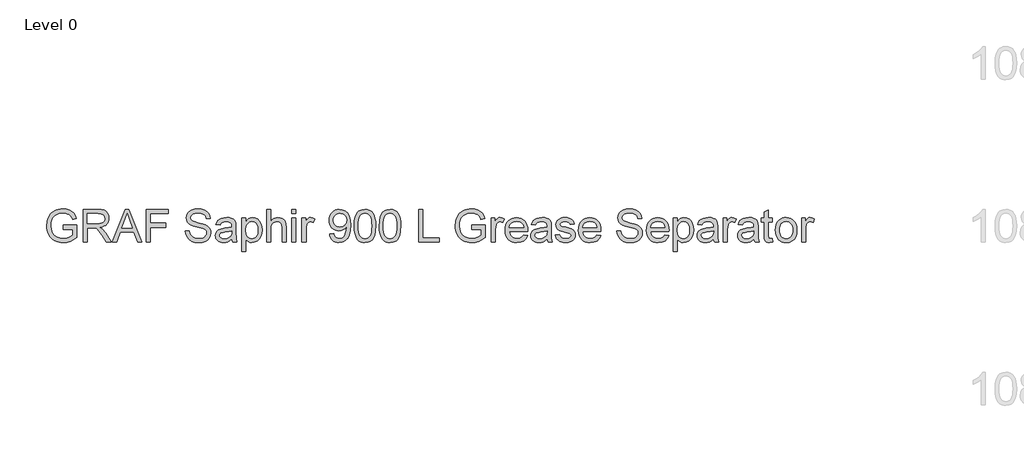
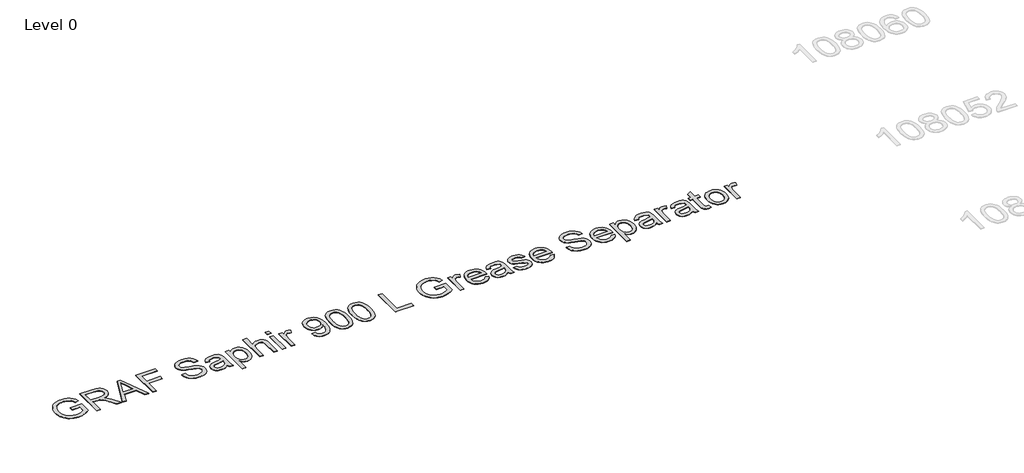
# One storey, part 2 of 15: 1 proxy.
"""IFC4 building model written with IfcOpenShell, lengths in millimetres."""

from ifc_helpers import new_model, si_unit, origin, origin_with_axes, place, context, project, spatial, polyline, outline, extrude, element, save

model = new_model("IFC4")

# Units and contexts
model_context = context("Model", 3, world=origin())
ifc_project = project(units=[si_unit("LENGTHUNIT", "METRE", prefix="MILLI")], contexts=[model_context])

# Site, building, storey
site = spatial("IfcSite", under=ifc_project)
building = spatial("IfcBuilding", under=site)
storey = spatial("IfcBuildingStorey", under=building, Name="Level 0", Elevation=0.0)

# Proxy
placement = place(None, origin())
element("IfcBuildingElementProxy", 1, Name="400mm Arial", ObjectType="400mm Arial", at=placement, inside=storey, context=model_context, shape_type="SweptSolid", body=[
    extrude(outline(polyline([(-14937.8149833, 6305.9861864), (-14937.8149833, 6356.2143415), (-14774.5734793, 6356.2143415), (-14774.5734793, 6206.0203856), (-14814.2434211, 6178.429236), (-14855.1641617, 6158.6371846), (-14897.2375993, 6146.717808), (-14940.3656318, 6142.7446824), (-14969.2167773, 6144.3235093), (-14996.7128907, 6149.05999), (-15022.8539722, 6156.9541245), (-15047.6400216, 6168.0059128), (-15070.2708957, 6182.0498079), (-15089.9464511, 6198.9202631), (-15106.6666877, 6218.6172783), (-15120.4316057, 6241.1408534), (-15131.182957, 6265.770553), (-15138.8624937, 6291.7859414), (-15143.4702157, 6319.1870187), (-15145.006123, 6347.9737848), (-15138.8870191, 6404.5662984), (-15131.2381393, 6431.3818302), (-15120.5297076, 6457.2102119), (-15106.9517963, 6480.9171408), (-15090.6944778, 6501.3683141), (-15071.7577521, 6518.5637317), (-15050.1416192, 6532.5033936), (-15026.3151286, 6543.2762047), (-15000.74733, 6550.9710698), (-14973.4382232, 6555.5879888), (-14944.3878083, 6557.1269618), (-14903.0133466, 6553.5585065), (-14865.8082141, 6542.8531404), (-14834.4769309, 6525.7834158), (-14810.7240167, 6503.1218849), (-14793.1515201, 6473.7771644), (-14780.3614894, 6436.6578711), (-14826.6655698, 6423.610323), (-14837.0030539, 6450.0855639), (-14849.5723554, 6470.0615563), (-14866.2006216, 6485.1201926), (-14888.7149997, 6496.8433655), (-14915.5581226, 6504.3849464), (-14945.1726232, 6506.8988067), (-14979.8393699, 6504.1887427), (-15009.478396, 6496.0585506), (-15033.9793369, 6483.5260373), (-15053.2318279, 6467.6090096), (-15068.0084214, 6449.1290708), (-15079.0816695, 6428.9078238), (-15090.8538933, 6390.9914528), (-15094.7779679, 6350.033924), (-15090.0568157, 6302.0007981), (-15075.8933588, 6262.4780091), (-15052.7167931, 6231.7475998), (-15020.9563142, 6210.091613), (-14983.78797, 6197.2525314), (-14944.3878083, 6192.9728375), (-14909.5984343, 6196.1979363), (-14875.6674516, 6205.8732328), (-14846.2001038, 6219.2028238), (-14824.8016344, 6233.390806), (-14824.8016344, 6305.9861864), (-14937.8149833, 6305.9861864)])), origin_with_axes(), (0.0, 0.0, 1.0), 5.0),
    extrude(outline(polyline([(-14692.9527273, 6149.0232018), (-14692.9527273, 6550.8484424), (-14519.8029349, 6550.8484424), (-14473.2658625, 6548.1383784), (-14439.4084563, 6540.0081863), (-14414.6622607, 6524.9986009), (-14395.4588206, 6501.6503569), (-14383.1347737, 6472.6980439), (-14379.0267581, 6440.8762513), (-14380.7282123, 6420.2380714), (-14385.832575, 6401.2921486), (-14394.3398462, 6384.0384831), (-14406.2500258, 6368.4770747), (-14421.716398, 6355.1045642), (-14440.892247, 6344.4175922), (-14463.7775727, 6336.4161588), (-14490.3723753, 6331.100264), (-14461.8247325, 6309.6159554), (-14421.1124584, 6257.9162724), (-14354.1088843, 6149.0232018), (-14412.4794942, 6149.0232018), (-14464.7677885, 6232.3116855), (-14502.5370066, 6287.4449339), (-14516.5778361, 6303.5213771), (-14529.0735612, 6313.4909791), (-14552.9613654, 6323.055911), (-14582.0976194, 6324.8217446), (-14642.7245723, 6324.8217446), (-14642.7245723, 6149.0232018), (-14692.9527273, 6149.0232018)]), holes=[polyline([(-14642.7245723, 6375.0498997), (-14530.2998345, 6375.0498997), (-14498.0120581, 6376.827996), (-14472.9592942, 6382.1622849), (-14454.0992106, 6391.4083857), (-14440.3894749, 6404.9219177), (-14432.0385536, 6421.268141), (-14429.2549132, 6439.0123159), (-14434.5646766, 6463.5132568), (-14450.493967, 6483.2562572), (-14462.6555327, 6490.8530204), (-14477.9011757, 6496.2792798), (-14517.6446939, 6500.6202873), (-14642.7245723, 6500.6202873), (-14642.7245723, 6375.0498997)])]), origin_with_axes(), (0.0, 0.0, 1.0), 5.0),
    extrude(outline(polyline([(-14337.9220765, 6149.0232018), (-14177.5255266, 6550.8484424), (-14134.7531133, 6550.8484424), (-13974.3565634, 6149.0232018), (-14027.4296726, 6149.0232018), (-14073.4394475, 6274.5935895), (-14238.9372943, 6274.5935895), (-14284.8489673, 6149.0232018), (-14337.9220765, 6149.0232018)]), holes=[polyline([(-14220.4941437, 6324.8217446), (-14091.7844963, 6324.8217446), (-14127.9840846, 6423.610323), (-14156.13932, 6500.6202873), (-14181.1552956, 6432.2432872), (-14220.4941437, 6324.8217446)])]), origin_with_axes(), (0.0, 0.0, 1.0), 5.0),
    extrude(outline(polyline([(-13920.6948431, 6149.0232018), (-13920.6948431, 6550.8484424), (-13650.7185095, 6550.8484424), (-13650.7185095, 6500.6202873), (-13870.466688, 6500.6202873), (-13870.466688, 6381.328419), (-13682.1111064, 6381.328419), (-13682.1111064, 6331.100264), (-13870.466688, 6331.100264), (-13870.466688, 6149.0232018), (-13920.6948431, 6149.0232018)])), origin_with_axes(), (0.0, 0.0, 1.0), 5.0),
    extrude(outline(polyline([(-13443.5273698, 6287.1506283), (-13393.2992148, 6287.1506283), (-13387.5357302, 6259.2774358), (-13377.112407, 6236.8734223), (-13360.8520228, 6219.0924592), (-13337.5773552, 6205.0884179), (-13309.1278143, 6196.0017326), (-13277.3428099, 6192.9728375), (-13249.3592528, 6195.2659686), (-13224.8583119, 6202.1453619), (-13205.0049469, 6213.034669), (-13190.9641174, 6227.3575413), (-13182.6131961, 6243.8018665), (-13179.8295557, 6261.0555321), (-13181.9142203, 6277.8677393), (-13188.1682143, 6292.3990781), (-13200.8724058, 6304.7967013), (-13222.3076634, 6315.2077618), (-13295.4426041, 6334.3866765), (-13343.4512044, 6347.0786053), (-13374.169351, 6359.1573975), (-13399.173064, 6376.0554438), (-13416.8927134, 6396.5342082), (-13427.4509267, 6420.1522323), (-13430.9703311, 6446.4680577), (-13426.6170608, 6475.8863545), (-13413.55725, 6503.3180886), (-13392.1342551, 6526.5682307), (-13362.6914328, 6543.4417516), (-13327.3502358, 6553.7056592), (-13288.2321169, 6557.1269618), (-13245.8521111, 6553.5462437), (-13208.769606, 6542.8040895), (-13178.3089768, 6525.1212282), (-13155.7945987, 6500.7183892), (-13141.5453027, 6471.1161513), (-13135.87992, 6437.8350935), (-13186.1080751, 6437.8350935), (-13195.3296504, 6467.8052134), (-13203.6928345, 6479.6632764), (-13214.557616, 6489.4366747), (-13244.6013123, 6502.5332737), (-13286.2700796, 6506.8988067), (-13328.9198656, 6502.5823247), (-13345.2231694, 6497.1867221), (-13358.178747, 6489.6328784), (-13375.1013187, 6470.5765911), (-13380.742176, 6447.9395856), (-13376.744525, 6428.6380436), (-13364.7515719, 6413.1134234), (-13336.4001328, 6399.2320095), (-13282.7384125, 6385.0562899), (-13227.3599095, 6371.5918089), (-13193.8581224, 6359.8441105), (-13165.2246405, 6341.621689), (-13145.2486482, 6319.1318364), (-13133.5132125, 6292.6198073), (-13129.6014006, 6262.3308563), (-13134.1018237, 6231.3674551), (-13147.6030929, 6202.2434638), (-13169.5533853, 6177.1784372), (-13199.4008778, 6158.39193), (-13235.2938978, 6146.6564943), (-13275.3807726, 6142.7446824), (-13324.5911208, 6146.9630626), (-13365.0949285, 6159.6182033), (-13397.3581794, 6180.7591553), (-13421.8468576, 6210.4349695), (-13437.5676815, 6246.5855069), (-13443.5273698, 6287.1506283)])), origin_with_axes(), (0.0, 0.0, 1.0), 5.0),
    extrude(outline(polyline([(-12872.1821059, 6186.6943181), (-12896.1802747, 6166.1174519), (-12920.889682, 6152.6529708), (-12946.8744136, 6145.2217545), (-12974.6985552, 6142.7446824), (-12997.0627148, 6144.2346045), (-13016.6738908, 6148.7043708), (-13033.5320833, 6156.1539812), (-13047.6372921, 6166.5834357), (-13058.7749195, 6179.3305469), (-13066.7303676, 6193.733127), (-13071.5036365, 6209.7911761), (-13073.0947262, 6227.5046941), (-13070.6912305, 6248.3268151), (-13063.4807434, 6267.2359496), (-13052.3584444, 6283.4227574), (-13038.219513, 6296.077898), (-13021.6035096, 6305.6428299), (-13003.0499943, 6312.5590114), (-12959.5908679, 6320.112855), (-12908.2345414, 6328.0591061), (-12872.4764115, 6337.3787834), (-12872.1821059, 6348.562396), (-12875.6401966, 6370.9786722), (-12886.0144689, 6385.6449011), (-12909.21556, 6396.5342082), (-12941.5401247, 6400.1639772), (-12971.4611936, 6397.7482188), (-12992.356891, 6390.5009435), (-13006.6061869, 6377.0977761), (-13016.5880517, 6356.2143415), (-13066.8162068, 6362.4928609), (-13058.0974035, 6389.9613832), (-13045.0866436, 6411.5437936), (-13026.5699165, 6428.0494324), (-13001.3332116, 6440.2876401), (-12970.4679122, 6447.8660092), (-12935.0654016, 6450.3921323), (-12901.1098934, 6448.1603148), (-12874.1931941, 6441.4648625), (-12853.8983707, 6431.3971586), (-12839.8084903, 6419.0485863), (-12830.4642876, 6403.7814835), (-12824.4064974, 6384.9581881), (-12821.9539508, 6341.0085524), (-12821.9539508, 6278.5176641), (-12819.4033023, 6191.2560549), (-12809.396912, 6149.0232018), (-12859.6250671, 6149.0232018), (-12867.6694201, 6166.4853339), (-12872.1821059, 6186.6943181)]), holes=[polyline([(-12872.1821059, 6287.1506283), (-12905.9291476, 6278.7874443), (-12953.2142467, 6271.7486354), (-12996.4281184, 6263.6061806), (-13007.6730447, 6258.0388997), (-13015.9994405, 6250.3624288), (-13021.1497884, 6241.1653789), (-13022.8665711, 6231.0363613), (-13019.1264375, 6216.1003523), (-13007.9060366, 6203.8621446), (-12989.4506232, 6195.6951643), (-12964.0054519, 6192.9728375), (-12937.0274389, 6195.9772071), (-12913.1886856, 6204.990316), (-12893.8626181, 6218.270856), (-12880.4226626, 6234.0775191), (-12874.4629742, 6250.3624288), (-12872.4764115, 6272.9258578), (-12872.1821059, 6287.1506283)])]), origin_with_axes(), (0.0, 0.0, 1.0), 5.0),
    extrude(outline(polyline([(-12752.8902376, 6036.0098529), (-12752.8902376, 6444.1136129), (-12702.6620825, 6444.1136129), (-12702.6620825, 6394.8664765), (-12686.279071, 6419.1589509), (-12667.9340221, 6436.5107183), (-12646.5478155, 6446.9217788), (-12621.0413305, 6450.3921323), (-12587.0735596, 6445.5360899), (-12557.3732199, 6430.9679629), (-12533.19111, 6407.570668), (-12515.7780289, 6376.227122), (-12505.2566039, 6339.2181933), (-12501.7494622, 6298.8247503), (-12505.710325, 6255.868396), (-12517.5929134, 6217.4492529), (-12537.0170828, 6185.5170957), (-12563.6026883, 6162.021699), (-12594.5660896, 6147.5639366), (-12627.1236461, 6142.7446824), (-12650.2143727, 6145.9697813), (-12670.8280272, 6155.6450777), (-12688.4741002, 6170.2499929), (-12702.6620825, 6188.263948), (-12702.6620825, 6036.0098529), (-12752.8902376, 6036.0098529)]), holes=[polyline([(-12702.6620825, 6294.2139626), (-12697.2296917, 6249.1852064), (-12690.4392032, 6231.7475998), (-12680.9325193, 6217.6945076), (-12656.8852996, 6199.153255), (-12643.1234473, 6194.5179419), (-12628.2027667, 6192.9728375), (-12613.0674882, 6194.5731242), (-12599.0542499, 6199.3739842), (-12586.1630517, 6207.3754176), (-12574.3938935, 6218.5774244), (-12564.5867726, 6233.13942), (-12557.5816863, 6251.2208201), (-12553.3786345, 6272.8216246), (-12551.9776173, 6297.9418335), (-12557.4467963, 6342.725335), (-12564.28327, 6360.2978317), (-12573.8543332, 6374.6574922), (-12597.8647648, 6393.7873559), (-12611.4702673, 6398.5698219), (-12626.1426275, 6400.1639772), (-12640.7690025, 6398.4686543), (-12654.5308548, 6393.3826858), (-12679.4609913, 6373.0388114), (-12689.6114687, 6357.9403212), (-12696.8618097, 6339.7700163), (-12701.2120143, 6318.5278968), (-12702.6620825, 6294.2139626)])]), origin_with_axes(), (0.0, 0.0, 1.0), 5.0),
    extrude(outline(polyline([(-12445.2427877, 6149.0232018), (-12445.2427877, 6550.8484424), (-12395.0146327, 6550.8484424), (-12395.0146327, 6403.1070332), (-12376.5653506, 6423.794264), (-12355.8474629, 6438.5708575), (-12332.8609696, 6447.4368136), (-12307.6058706, 6450.3921323), (-12277.2678687, 6447.1670334), (-12251.197298, 6437.491737), (-12230.6694827, 6422.1265323), (-12216.959747, 6401.8317089), (-12209.2342251, 6373.9462537), (-12206.6590511, 6335.8091535), (-12206.6590511, 6149.0232018), (-12256.8872062, 6149.0232018), (-12256.8872062, 6330.6097546), (-12260.8848572, 6362.0514025), (-12272.8778103, 6383.5847619), (-12292.2038777, 6396.0191734), (-12318.2008721, 6400.1639772), (-12339.4276632, 6397.368074), (-12359.3546046, 6388.9803645), (-12375.8602434, 6375.8101891), (-12386.8231269, 6358.6668881), (-12392.9667562, 6335.8827299), (-12395.0146327, 6305.7899827), (-12395.0146327, 6149.0232018), (-12445.2427877, 6149.0232018)])), origin_with_axes(), (0.0, 0.0, 1.0), 5.0),
    extrude(outline(polyline([(-12137.5953379, 6500.6202873), (-12137.5953379, 6550.8484424), (-12087.3671828, 6550.8484424), (-12087.3671828, 6500.6202873), (-12137.5953379, 6500.6202873)])), origin_with_axes(), (0.0, 0.0, 1.0), 5.0),
    extrude(outline(polyline([(-12137.5953379, 6149.0232018), (-12137.5953379, 6444.1136129), (-12087.3671828, 6444.1136129), (-12087.3671828, 6149.0232018), (-12137.5953379, 6149.0232018)])), origin_with_axes(), (0.0, 0.0, 1.0), 5.0),
    extrude(outline(polyline([(-12012.0249502, 6149.0232018), (-12012.0249502, 6444.1136129), (-11968.0753145, 6444.1136129), (-11968.0753145, 6400.4582828), (-11951.8394558, 6425.7685641), (-11936.8789213, 6440.6800476), (-11921.8693359, 6447.9641111), (-11905.4863244, 6450.3921323), (-11880.4703487, 6446.5171086), (-11855.0619656, 6434.8920375), (-11871.8373846, 6389.8632813), (-11889.4957204, 6397.5888032), (-11907.1540561, 6400.1639772), (-11922.1513788, 6397.6869051), (-11935.5545461, 6390.2556888), (-11946.3825395, 6378.434414), (-11953.6543403, 6362.7871665), (-11959.7611814, 6334.730033), (-11961.7967951, 6304.122251), (-11961.7967951, 6149.0232018), (-12012.0249502, 6149.0232018)])), origin_with_axes(), (0.0, 0.0, 1.0), 5.0),
    extrude(outline(polyline([(-11672.9849035, 6249.479512), (-11622.7567484, 6255.7580314), (-11614.1728352, 6227.2471767), (-11600.1933193, 6207.8352701), (-11581.1615575, 6196.6884457), (-11557.420906, 6192.9728375), (-11536.1205385, 6195.3640705), (-11516.7576828, 6202.5377694), (-11500.6689769, 6213.7091193), (-11489.1910587, 6228.0933053), (-11472.7589962, 6271.7486354), (-11467.3143427, 6300.1491254), (-11465.4994582, 6330.0211434), (-11465.7937638, 6339.83133), (-11483.1945821, 6318.5922761), (-11505.9664776, 6301.7678062), (-11532.466244, 6290.8049228), (-11561.0506751, 6287.1506283), (-11584.9108881, 6289.3824457), (-11606.8519835, 6296.077898), (-11626.873961, 6307.2369852), (-11644.9768209, 6322.8597073), (-11659.9772092, 6342.1305925), (-11670.6917724, 6364.234169), (-11677.1205102, 6389.1704369), (-11679.2634228, 6416.9393962), (-11677.016277, 6445.6341918), (-11670.2748394, 6471.3859315), (-11659.0391102, 6494.1946152), (-11643.3090892, 6514.0602429), (-11624.1945538, 6530.1550802), (-11602.8052815, 6541.6513925), (-11579.1412722, 6548.54918), (-11553.2025258, 6550.8484424), (-11515.739876, 6545.5999926), (-11481.637215, 6529.8546432), (-11453.1140977, 6504.3972092), (-11432.3900786, 6470.0125053), (-11419.7717262, 6422.4821516), (-11415.5656087, 6357.5877676), (-11419.7594634, 6288.7815718), (-11432.3410277, 6235.598098), (-11453.1999368, 6195.6338506), (-11466.692009, 6179.7076259), (-11482.2258262, 6166.4853339), (-11499.4886888, 6156.0987989), (-11518.1678972, 6148.6798453), (-11559.7753508, 6142.7446824), (-11582.3326485, 6144.4951876), (-11602.7194424, 6149.7467031), (-11620.9357325, 6158.4992289), (-11636.9815189, 6170.752765), (-11650.4521313, 6186.1762177), (-11660.9428995, 6204.438493), (-11668.4538235, 6225.5395911), (-11672.9849035, 6249.479512)]), holes=[polyline([(-11465.7937638, 6418.1166186), (-11471.2138918, 6452.1579658), (-11477.9890519, 6466.2355835), (-11487.474276, 6478.3511639), (-11499.2035803, 6488.0939054), (-11512.7109809, 6495.0530065), (-11545.060071, 6500.6202873), (-11562.6693558, 6499.1211682), (-11578.610909, 6494.6238108), (-11592.8847304, 6487.1282152), (-11605.4908201, 6476.6343813), (-11615.7915159, 6463.7554457), (-11623.1491558, 6449.1045453), (-11627.5637398, 6432.6816799), (-11629.0352678, 6414.4868495), (-11623.4679869, 6383.4498719), (-11616.5088858, 6370.3318131), (-11606.7661443, 6358.8140409), (-11594.6444326, 6349.4361157), (-11580.5484208, 6342.7375977), (-11546.4334971, 6337.3787834), (-11514.3419244, 6342.7375977), (-11488.5043456, 6358.8140409), (-11478.5684661, 6370.5586736), (-11471.4714092, 6384.3573141), (-11465.7937638, 6418.1166186)])]), origin_with_axes(), (0.0, 0.0, 1.0), 5.0),
    extrude(outline(polyline([(-11371.615973, 6346.6984606), (-11367.9248903, 6411.0164961), (-11356.8516423, 6462.3115089), (-11338.5065934, 6501.3683141), (-11326.6485305, 6516.6016944), (-11313.0001084, 6528.9717264), (-11297.5153421, 6538.5427897), (-11280.1482463, 6545.3792634), (-11239.7670659, 6550.8484424), (-11208.8159274, 6547.6110809), (-11181.1021504, 6537.8989962), (-11157.9255847, 6522.0923331), (-11140.58608, 6500.5712364), (-11127.489481, 6473.519647), (-11117.0416323, 6441.121506), (-11110.1990272, 6399.9800362), (-11107.9181589, 6346.6984606), (-11111.5724533, 6282.7483071), (-11122.5353368, 6231.5759215), (-11140.770021, 6192.4823282), (-11152.6004929, 6177.2029627), (-11166.2397178, 6164.7685512), (-11181.7428782, 6155.1331086), (-11199.1651564, 6148.2506496), (-11239.7670659, 6142.7446824), (-11267.431792, 6145.1359154), (-11291.9572583, 6152.3096143), (-11313.343465, 6164.2657792), (-11331.5904119, 6181.0044099), (-11349.1015949, 6211.262704), (-11361.6095827, 6248.9644772), (-11369.1143754, 6294.1097294), (-11371.615973, 6346.6984606)]), holes=[polyline([(-11321.3878179, 6346.7965624), (-11319.91629, 6303.1320353), (-11315.501706, 6267.7877726), (-11308.1440661, 6240.7637744), (-11297.8433702, 6222.0600406), (-11285.3844333, 6209.3343892), (-11271.5520703, 6200.2446383), (-11256.3462812, 6194.7907877), (-11239.7670659, 6192.9728375), (-11223.1878507, 6194.7969191), (-11207.9820616, 6200.2691637), (-11194.1496985, 6209.3895715), (-11181.6907616, 6222.1581425), (-11171.3900658, 6240.8925331), (-11164.0324259, 6267.9103999), (-11159.6178419, 6303.2117431), (-11158.1463139, 6346.7965624), (-11159.568791, 6389.305327), (-11163.8362221, 6424.0272559), (-11170.9486074, 6450.9623494), (-11180.9059467, 6470.1106072), (-11193.1564171, 6483.4585923), (-11207.1481957, 6492.9928673), (-11222.8812824, 6498.7134323), (-11240.3556771, 6500.6202873), (-11256.8490532, 6498.9402929), (-11271.797325, 6493.9003096), (-11285.2004923, 6485.5003373), (-11297.0585553, 6473.7403762), (-11307.7026077, 6452.8937298), (-11315.3055023, 6424.7875454), (-11319.867239, 6389.4218229), (-11321.3878179, 6346.7965624)])]), origin_with_axes(), (0.0, 0.0, 1.0), 5.0),
    extrude(outline(polyline([(-11063.9685232, 6346.6984606), (-11060.2774405, 6411.0164961), (-11049.2041924, 6462.3115089), (-11030.8591436, 6501.3683141), (-11019.0010806, 6516.6016944), (-11005.3526586, 6528.9717264), (-10989.8678923, 6538.5427897), (-10972.5007964, 6545.3792634), (-10932.1196161, 6550.8484424), (-10901.1684776, 6547.6110809), (-10873.4547006, 6537.8989962), (-10850.2781349, 6522.0923331), (-10832.9386302, 6500.5712364), (-10819.8420312, 6473.519647), (-10809.3941825, 6441.121506), (-10802.5515774, 6399.9800362), (-10800.270709, 6346.6984606), (-10803.9250035, 6282.7483071), (-10814.887887, 6231.5759215), (-10833.1225712, 6192.4823282), (-10844.953043, 6177.2029627), (-10858.592268, 6164.7685512), (-10874.0954284, 6155.1331086), (-10891.5177066, 6148.2506496), (-10932.1196161, 6142.7446824), (-10959.7843421, 6145.1359154), (-10984.3098085, 6152.3096143), (-11005.6960151, 6164.2657792), (-11023.9429621, 6181.0044099), (-11041.4541451, 6211.262704), (-11053.9621329, 6248.9644772), (-11061.4669256, 6294.1097294), (-11063.9685232, 6346.6984606)]), holes=[polyline([(-11013.7403681, 6346.7965624), (-11012.2688401, 6303.1320353), (-11007.8542562, 6267.7877726), (-11000.4966163, 6240.7637744), (-10990.1959204, 6222.0600406), (-10977.7369835, 6209.3343892), (-10963.9046205, 6200.2446383), (-10948.6988314, 6194.7907877), (-10932.1196161, 6192.9728375), (-10915.5404009, 6194.7969191), (-10900.3346117, 6200.2691637), (-10886.5022487, 6209.3895715), (-10874.0433118, 6222.1581425), (-10863.7426159, 6240.8925331), (-10856.384976, 6267.9103999), (-10851.9703921, 6303.2117431), (-10850.4988641, 6346.7965624), (-10851.9213412, 6389.305327), (-10856.1887723, 6424.0272559), (-10863.3011575, 6450.9623494), (-10873.2584969, 6470.1106072), (-10885.5089673, 6483.4585923), (-10899.5007459, 6492.9928673), (-10915.2338325, 6498.7134323), (-10932.7082273, 6500.6202873), (-10949.2016034, 6498.9402929), (-10964.1498751, 6493.9003096), (-10977.5530425, 6485.5003373), (-10989.4111055, 6473.7403762), (-11000.0551579, 6452.8937298), (-11007.6580524, 6424.7875454), (-11012.2197892, 6389.4218229), (-11013.7403681, 6346.7965624)])]), origin_with_axes(), (0.0, 0.0, 1.0), 5.0),
    extrude(outline(polyline([(-10580.5225306, 6149.0232018), (-10580.5225306, 6550.8484424), (-10530.2943755, 6550.8484424), (-10530.2943755, 6199.2513569), (-10329.3817552, 6199.2513569), (-10329.3817552, 6149.0232018), (-10580.5225306, 6149.0232018)])), origin_with_axes(), (0.0, 0.0, 1.0), 5.0),
    extrude(outline(polyline([(-9927.5565146, 6305.9861864), (-9927.5565146, 6356.2143415), (-9764.3150106, 6356.2143415), (-9764.3150106, 6206.0203856), (-9803.9849524, 6178.429236), (-9844.905693, 6158.6371846), (-9886.9791305, 6146.717808), (-9930.1071631, 6142.7446824), (-9958.9583086, 6144.3235093), (-9986.454422, 6149.05999), (-10012.5955035, 6156.9541245), (-10037.3815529, 6168.0059128), (-10060.012427, 6182.0498079), (-10079.6879823, 6198.9202631), (-10096.408219, 6218.6172783), (-10110.173137, 6241.1408534), (-10120.9244883, 6265.770553), (-10128.604025, 6291.7859414), (-10133.211747, 6319.1870187), (-10134.7476543, 6347.9737848), (-10128.6285504, 6404.5662984), (-10120.9796706, 6431.3818302), (-10110.2712389, 6457.2102119), (-10096.6933276, 6480.9171408), (-10080.4360091, 6501.3683141), (-10061.4992834, 6518.5637317), (-10039.8831505, 6532.5033936), (-10016.0566599, 6543.2762047), (-9990.4888612, 6550.9710698), (-9963.1797545, 6555.5879888), (-9934.1293396, 6557.1269618), (-9892.7548779, 6553.5585065), (-9855.5497454, 6542.8531404), (-9824.2184622, 6525.7834158), (-9800.465548, 6503.1218849), (-9782.8930514, 6473.7771644), (-9770.1030207, 6436.6578711), (-9816.4071011, 6423.610323), (-9826.7445852, 6450.0855639), (-9839.3138867, 6470.0615563), (-9855.9421529, 6485.1201926), (-9878.456531, 6496.8433655), (-9905.2996539, 6504.3849464), (-9934.9141545, 6506.8988067), (-9969.5809012, 6504.1887427), (-9999.2199273, 6496.0585506), (-10023.7208681, 6483.5260373), (-10042.9733592, 6467.6090096), (-10057.7499527, 6449.1290708), (-10068.8232008, 6428.9078238), (-10080.5954246, 6390.9914528), (-10084.5194992, 6350.033924), (-10079.7983469, 6302.0007981), (-10065.6348901, 6262.4780091), (-10042.4583244, 6231.7475998), (-10010.6978455, 6210.091613), (-9973.5295013, 6197.2525314), (-9934.1293396, 6192.9728375), (-9899.3399656, 6196.1979363), (-9865.4089829, 6205.8732328), (-9835.9416351, 6219.2028238), (-9814.5431657, 6233.390806), (-9814.5431657, 6305.9861864), (-9927.5565146, 6305.9861864)])), origin_with_axes(), (0.0, 0.0, 1.0), 5.0),
    extrude(outline(polyline([(-9688.972778, 6149.0232018), (-9688.972778, 6444.1136129), (-9645.0231423, 6444.1136129), (-9645.0231423, 6400.4582828), (-9628.7872836, 6425.7685641), (-9613.8267491, 6440.6800476), (-9598.8171637, 6447.9641111), (-9582.4341522, 6450.3921323), (-9557.4181765, 6446.5171086), (-9532.0097934, 6434.8920375), (-9548.7852124, 6389.8632813), (-9566.4435481, 6397.5888032), (-9584.1018839, 6400.1639772), (-9599.0992066, 6397.6869051), (-9612.5023739, 6390.2556888), (-9623.3303673, 6378.434414), (-9630.6021681, 6362.7871665), (-9636.7090092, 6334.730033), (-9638.7446229, 6304.122251), (-9638.7446229, 6149.0232018), (-9688.972778, 6149.0232018)])), origin_with_axes(), (0.0, 0.0, 1.0), 5.0),
    extrude(outline(polyline([(-9294.014668, 6236.9224732), (-9244.7675316, 6230.6439538), (-9252.3183095, 6210.9193475), (-9262.5117065, 6193.5369232), (-9275.3477224, 6178.496681), (-9290.8263574, 6165.7986208), (-9308.7881958, 6155.7125228), (-9329.0738221, 6148.508167), (-9376.6164386, 6142.7446824), (-9407.782175, 6145.2309516), (-9435.5511343, 6152.689759), (-9459.9233164, 6165.1211048), (-9480.8987215, 6182.5249888), (-9497.766111, 6204.4170332), (-9509.8142464, 6230.31286), (-9517.0431276, 6260.2124692), (-9519.4527546, 6294.1158607), (-9517.0186021, 6329.1688835), (-9509.7161445, 6360.0648397), (-9497.5453818, 6386.8037294), (-9480.5063141, 6409.3855525), (-9459.5860913, 6427.3259312), (-9435.7718635, 6440.1404873), (-9409.0636306, 6447.829221), (-9379.4613927, 6450.3921323), (-9350.8125824, 6447.8353524), (-9324.9044928, 6440.1650128), (-9301.7371242, 6427.3811135), (-9281.3104764, 6409.4836544), (-9264.636225, 6386.9508822), (-9252.7260454, 6360.2610435), (-9245.5799376, 6329.4141382), (-9243.1979017, 6294.4101663), (-9243.4922073, 6280.8721089), (-9469.2245995, 6280.8721089), (-9466.3152661, 6260.8286715), (-9460.5303217, 6243.274569), (-9451.8697664, 6228.2098013), (-9440.3336002, 6215.6343684), (-9426.5594852, 6205.7199486), (-9411.1850834, 6198.6382202), (-9375.63542, 6192.9728375), (-9348.9026617, 6195.5970624), (-9326.3882836, 6203.4697371), (-9308.0922857, 6217.0813709), (-9294.014668, 6236.9224732)]), holes=[polyline([(-9469.2245995, 6331.100264), (-9293.4260568, 6331.100264), (-9300.219611, 6357.6368186), (-9313.5369392, 6376.6195295), (-9327.2344121, 6386.9202254), (-9342.820346, 6394.2778653), (-9360.2947408, 6398.6924492), (-9379.6575965, 6400.1639772), (-9413.5150027, 6395.4673504), (-9441.5108226, 6381.37747), (-9460.9717801, 6359.4149149), (-9469.2245995, 6331.100264)])]), origin_with_axes(), (0.0, 0.0, 1.0), 5.0),
    extrude(outline(polyline([(-9004.6141651, 6186.6943181), (-9028.6123339, 6166.1174519), (-9053.3217413, 6152.6529708), (-9079.3064729, 6145.2217545), (-9107.1306144, 6142.7446824), (-9129.4947741, 6144.2346045), (-9149.1059501, 6148.7043708), (-9165.9641425, 6156.1539812), (-9180.0693513, 6166.5834357), (-9191.2069787, 6179.3305469), (-9199.1624269, 6193.733127), (-9203.9356958, 6209.7911761), (-9205.5267854, 6227.5046941), (-9203.1232897, 6248.3268151), (-9195.9128026, 6267.2359496), (-9184.7905036, 6283.4227574), (-9170.6515723, 6296.077898), (-9154.0355688, 6305.6428299), (-9135.4820535, 6312.5590114), (-9092.0229272, 6320.112855), (-9040.6666006, 6328.0591061), (-9004.9084707, 6337.3787834), (-9004.6141651, 6348.562396), (-9008.0722559, 6370.9786722), (-9018.4465281, 6385.6449011), (-9041.6476193, 6396.5342082), (-9073.9721839, 6400.1639772), (-9103.8932529, 6397.7482188), (-9124.7889502, 6390.5009435), (-9139.0382461, 6377.0977761), (-9149.0201109, 6356.2143415), (-9199.248266, 6362.4928609), (-9190.5294627, 6389.9613832), (-9177.5187028, 6411.5437936), (-9159.0019757, 6428.0494324), (-9133.7652709, 6440.2876401), (-9102.8999715, 6447.8660092), (-9067.4974608, 6450.3921323), (-9033.5419527, 6448.1603148), (-9006.6252533, 6441.4648625), (-8986.3304299, 6431.3971586), (-8972.2405495, 6419.0485863), (-8962.8963469, 6403.7814835), (-8956.8385567, 6384.9581881), (-8954.38601, 6341.0085524), (-8954.38601, 6278.5176641), (-8951.8353615, 6191.2560549), (-8941.8289713, 6149.0232018), (-8992.0571263, 6149.0232018), (-9000.1014793, 6166.4853339), (-9004.6141651, 6186.6943181)]), holes=[polyline([(-9004.6141651, 6287.1506283), (-9038.3612068, 6278.7874443), (-9085.6463059, 6271.7486354), (-9128.8601776, 6263.6061806), (-9140.1051039, 6258.0388997), (-9148.4314998, 6250.3624288), (-9153.5818477, 6241.1653789), (-9155.2986303, 6231.0363613), (-9151.5584967, 6216.1003523), (-9140.3380959, 6203.8621446), (-9121.8826824, 6195.6951643), (-9096.4375111, 6192.9728375), (-9069.4594981, 6195.9772071), (-9045.6207448, 6204.990316), (-9026.2946774, 6218.270856), (-9012.8547218, 6234.0775191), (-9006.8950335, 6250.3624288), (-9004.9084707, 6272.9258578), (-9004.6141651, 6287.1506283)])]), origin_with_axes(), (0.0, 0.0, 1.0), 5.0),
    extrude(outline(polyline([(-8904.157855, 6236.9224732), (-8853.9296999, 6243.2009926), (-8846.0079743, 6221.7166841), (-8830.6795578, 6205.9222837), (-8807.8463486, 6196.2101991), (-8777.4102449, 6192.9728375), (-8747.3420231, 6195.9404189), (-8726.2010712, 6204.8431632), (-8713.6930833, 6217.7435585), (-8709.523754, 6232.704093), (-8713.7176088, 6245.5063864), (-8726.299173, 6255.267522), (-8777.9988561, 6269.5903944), (-8853.6353943, 6294.1649117), (-8872.7775208, 6306.513484), (-8886.646672, 6322.8597073), (-8895.0711697, 6342.1612493), (-8897.8793356, 6363.3757777), (-8895.6229927, 6382.8367352), (-8888.853964, 6400.8016393), (-8878.1853861, 6416.5592514), (-8864.2303957, 6429.3983331), (-8832.2982386, 6444.2607657), (-8811.414804, 6448.8592906), (-8789.0843669, 6450.3921323), (-8756.3919202, 6447.9273229), (-8727.9669047, 6440.5328948), (-8705.1091701, 6428.9323492), (-8689.118566, 6413.8491874), (-8678.5235646, 6394.1675007), (-8671.8526377, 6368.7713803), (-8722.0807928, 6362.4928609), (-8728.4206259, 6378.2995239), (-8740.9654019, 6390.2066379), (-8759.8377482, 6397.6746424), (-8785.1602923, 6400.1639772), (-8814.0022407, 6397.785007), (-8833.2302063, 6390.6480963), (-8844.0459369, 6380.3474004), (-8847.6511805, 6368.4770747), (-8841.6669667, 6353.8598967), (-8822.9295104, 6342.7743859), (-8779.6665878, 6332.0812826), (-8705.943036, 6308.4387331), (-8686.4698157, 6297.1324931), (-8671.7054849, 6281.6569238), (-8662.3980705, 6261.9629743), (-8659.295599, 6238.0015937), (-8662.9376307, 6213.2308727), (-8673.863726, 6189.9316797), (-8691.6569518, 6169.9311619), (-8715.9003753, 6155.0564665), (-8745.1837821, 6145.8226285), (-8778.0969579, 6142.7446824), (-8805.1301532, 6144.2284732), (-8828.7420459, 6148.6798453), (-8848.9326361, 6156.0987989), (-8865.7019237, 6166.4853339), (-8879.3993967, 6179.7903994), (-8890.3745429, 6195.9649444), (-8898.6273623, 6215.008969), (-8904.157855, 6236.9224732)])), origin_with_axes(), (0.0, 0.0, 1.0), 5.0),
    extrude(outline(polyline([(-8396.186396, 6236.9224732), (-8346.9392596, 6230.6439538), (-8354.4900375, 6210.9193475), (-8364.6834345, 6193.5369232), (-8377.5194504, 6178.496681), (-8392.9980854, 6165.7986208), (-8410.9599238, 6155.7125228), (-8431.2455502, 6148.508167), (-8478.7881667, 6142.7446824), (-8509.953903, 6145.2309516), (-8537.7228623, 6152.689759), (-8562.0950445, 6165.1211048), (-8583.0704496, 6182.5249888), (-8599.937839, 6204.4170332), (-8611.9859744, 6230.31286), (-8619.2148556, 6260.2124692), (-8621.6244827, 6294.1158607), (-8619.1903301, 6329.1688835), (-8611.8878725, 6360.0648397), (-8599.7171098, 6386.8037294), (-8582.6780421, 6409.3855525), (-8561.7578193, 6427.3259312), (-8537.9435915, 6440.1404873), (-8511.2353586, 6447.829221), (-8481.6331208, 6450.3921323), (-8452.9843104, 6447.8353524), (-8427.0762209, 6440.1650128), (-8403.9088522, 6427.3811135), (-8383.4822045, 6409.4836544), (-8366.807953, 6386.9508822), (-8354.8977734, 6360.2610435), (-8347.7516657, 6329.4141382), (-8345.3696298, 6294.4101663), (-8345.6639353, 6280.8721089), (-8571.3963276, 6280.8721089), (-8568.4869941, 6260.8286715), (-8562.7020498, 6243.274569), (-8554.0414945, 6228.2098013), (-8542.5053282, 6215.6343684), (-8528.7312132, 6205.7199486), (-8513.3568115, 6198.6382202), (-8477.807148, 6192.9728375), (-8451.0743897, 6195.5970624), (-8428.5600116, 6203.4697371), (-8410.2640137, 6217.0813709), (-8396.186396, 6236.9224732)]), holes=[polyline([(-8571.3963276, 6331.100264), (-8395.5977848, 6331.100264), (-8402.391339, 6357.6368186), (-8415.7086672, 6376.6195295), (-8429.4061402, 6386.9202254), (-8444.992074, 6394.2778653), (-8462.4664688, 6398.6924492), (-8481.8293245, 6400.1639772), (-8515.6867308, 6395.4673504), (-8543.6825506, 6381.37747), (-8563.1435082, 6359.4149149), (-8571.3963276, 6331.100264)])]), origin_with_axes(), (0.0, 0.0, 1.0), 5.0),
    extrude(outline(polyline([(-8150.7355288, 6287.1506283), (-8100.5073738, 6287.1506283), (-8094.7438892, 6259.2774358), (-8084.320566, 6236.8734223), (-8068.0601818, 6219.0924592), (-8044.7855142, 6205.0884179), (-8016.3359733, 6196.0017326), (-7984.5509689, 6192.9728375), (-7956.5674118, 6195.2659686), (-7932.0664709, 6202.1453619), (-7912.2131059, 6213.034669), (-7898.1722764, 6227.3575413), (-7889.8213551, 6243.8018665), (-7887.0377147, 6261.0555321), (-7889.1223793, 6277.8677393), (-7895.3763732, 6292.3990781), (-7908.0805648, 6304.7967013), (-7929.5158224, 6315.2077618), (-8002.650763, 6334.3866765), (-8050.6593634, 6347.0786053), (-8081.37751, 6359.1573975), (-8106.381223, 6376.0554438), (-8124.1008724, 6396.5342082), (-8134.6590856, 6420.1522323), (-8138.1784901, 6446.4680577), (-8133.8252198, 6475.8863545), (-8120.765409, 6503.3180886), (-8099.3424141, 6526.5682307), (-8069.8995918, 6543.4417516), (-8034.5583948, 6553.7056592), (-7995.4402759, 6557.1269618), (-7953.0602701, 6553.5462437), (-7915.977765, 6542.8040895), (-7885.5171358, 6525.1212282), (-7863.0027577, 6500.7183892), (-7848.7534617, 6471.1161513), (-7843.088079, 6437.8350935), (-7893.3162341, 6437.8350935), (-7902.5378094, 6467.8052134), (-7910.9009934, 6479.6632764), (-7921.765775, 6489.4366747), (-7951.8094713, 6502.5332737), (-7993.4782386, 6506.8988067), (-8036.1280246, 6502.5823247), (-8052.4313284, 6497.1867221), (-8065.386906, 6489.6328784), (-8082.3094777, 6470.5765911), (-8087.950335, 6447.9395856), (-8083.952684, 6428.6380436), (-8071.9597309, 6413.1134234), (-8043.6082918, 6399.2320095), (-7989.9465715, 6385.0562899), (-7934.5680685, 6371.5918089), (-7901.0662814, 6359.8441105), (-7872.4327995, 6341.621689), (-7852.4568071, 6319.1318364), (-7840.7213715, 6292.6198073), (-7836.8095596, 6262.3308563), (-7841.3099827, 6231.3674551), (-7854.8112519, 6202.2434638), (-7876.7615443, 6177.1784372), (-7906.6090368, 6158.39193), (-7942.5020568, 6146.6564943), (-7982.5889316, 6142.7446824), (-8031.7992798, 6146.9630626), (-8072.3030875, 6159.6182033), (-8104.5663384, 6180.7591553), (-8129.0550166, 6210.4349695), (-8144.7758405, 6246.5855069), (-8150.7355288, 6287.1506283)])), origin_with_axes(), (0.0, 0.0, 1.0), 5.0),
    extrude(outline(polyline([(-7561.1433179, 6236.9224732), (-7511.8961815, 6230.6439538), (-7519.4469594, 6210.9193475), (-7529.6403564, 6193.5369232), (-7542.4763723, 6178.496681), (-7557.9550073, 6165.7986208), (-7575.9168457, 6155.7125228), (-7596.202472, 6148.508167), (-7643.7450885, 6142.7446824), (-7674.9108249, 6145.2309516), (-7702.6797842, 6152.689759), (-7727.0519664, 6165.1211048), (-7748.0273714, 6182.5249888), (-7764.8947609, 6204.4170332), (-7776.9428963, 6230.31286), (-7784.1717775, 6260.2124692), (-7786.5814045, 6294.1158607), (-7784.147252, 6329.1688835), (-7776.8447944, 6360.0648397), (-7764.6740317, 6386.8037294), (-7747.634964, 6409.3855525), (-7726.7147412, 6427.3259312), (-7702.9005134, 6440.1404873), (-7676.1922805, 6447.829221), (-7646.5900426, 6450.3921323), (-7617.9412323, 6447.8353524), (-7592.0331428, 6440.1650128), (-7568.8657741, 6427.3811135), (-7548.4391263, 6409.4836544), (-7531.7648749, 6386.9508822), (-7519.8546953, 6360.2610435), (-7512.7085876, 6329.4141382), (-7510.3265516, 6294.4101663), (-7510.6208572, 6280.8721089), (-7736.3532495, 6280.8721089), (-7733.443916, 6260.8286715), (-7727.6589716, 6243.274569), (-7718.9984163, 6228.2098013), (-7707.4622501, 6215.6343684), (-7693.6881351, 6205.7199486), (-7678.3137334, 6198.6382202), (-7642.7640699, 6192.9728375), (-7616.0313116, 6195.5970624), (-7593.5169335, 6203.4697371), (-7575.2209356, 6217.0813709), (-7561.1433179, 6236.9224732)]), holes=[polyline([(-7736.3532495, 6331.100264), (-7560.5547067, 6331.100264), (-7567.3482609, 6357.6368186), (-7580.6655891, 6376.6195295), (-7594.3630621, 6386.9202254), (-7609.9489959, 6394.2778653), (-7627.4233907, 6398.6924492), (-7646.7862464, 6400.1639772), (-7680.6436527, 6395.4673504), (-7708.6394725, 6381.37747), (-7728.10043, 6359.4149149), (-7736.3532495, 6331.100264)])]), origin_with_axes(), (0.0, 0.0, 1.0), 5.0),
    extrude(outline(polyline([(-7460.0983966, 6036.0098529), (-7460.0983966, 6444.1136129), (-7409.8702415, 6444.1136129), (-7409.8702415, 6394.8664765), (-7393.48723, 6419.1589509), (-7375.1421811, 6436.5107183), (-7353.7559745, 6446.9217788), (-7328.2494895, 6450.3921323), (-7294.2817186, 6445.5360899), (-7264.5813789, 6430.9679629), (-7240.399269, 6407.570668), (-7222.9861879, 6376.227122), (-7212.4647629, 6339.2181933), (-7208.9576212, 6298.8247503), (-7212.918484, 6255.868396), (-7224.8010724, 6217.4492529), (-7244.2252418, 6185.5170957), (-7270.8108473, 6162.021699), (-7301.7742486, 6147.5639366), (-7334.3318051, 6142.7446824), (-7357.4225317, 6145.9697813), (-7378.0361862, 6155.6450777), (-7395.6822592, 6170.2499929), (-7409.8702415, 6188.263948), (-7409.8702415, 6036.0098529), (-7460.0983966, 6036.0098529)]), holes=[polyline([(-7409.8702415, 6294.2139626), (-7404.4378507, 6249.1852064), (-7397.6473622, 6231.7475998), (-7388.1406783, 6217.6945076), (-7364.0934585, 6199.153255), (-7350.3316062, 6194.5179419), (-7335.4109257, 6192.9728375), (-7320.2756472, 6194.5731242), (-7306.2624089, 6199.3739842), (-7293.3712107, 6207.3754176), (-7281.6020525, 6218.5774244), (-7271.7949316, 6233.13942), (-7264.7898453, 6251.2208201), (-7260.5867935, 6272.8216246), (-7259.1857763, 6297.9418335), (-7264.6549553, 6342.725335), (-7271.491429, 6360.2978317), (-7281.0624922, 6374.6574922), (-7305.0729238, 6393.7873559), (-7318.6784262, 6398.5698219), (-7333.3507865, 6400.1639772), (-7347.9771615, 6398.4686543), (-7361.7390138, 6393.3826858), (-7386.6691503, 6373.0388114), (-7396.8196277, 6357.9403212), (-7404.0699687, 6339.7700163), (-7408.4201733, 6318.5278968), (-7409.8702415, 6294.2139626)])]), origin_with_axes(), (0.0, 0.0, 1.0), 5.0),
    extrude(outline(polyline([(-6964.0953652, 6186.6943181), (-6988.093534, 6166.1174519), (-7012.8029414, 6152.6529708), (-7038.7876729, 6145.2217545), (-7066.6118145, 6142.7446824), (-7088.9759741, 6144.2346045), (-7108.5871502, 6148.7043708), (-7125.4453426, 6156.1539812), (-7139.5505514, 6166.5834357), (-7150.6881788, 6179.3305469), (-7158.643627, 6193.733127), (-7163.4168959, 6209.7911761), (-7165.0079855, 6227.5046941), (-7162.6044898, 6248.3268151), (-7155.3940027, 6267.2359496), (-7144.2717037, 6283.4227574), (-7130.1327723, 6296.077898), (-7113.5167689, 6305.6428299), (-7094.9632536, 6312.5590114), (-7051.5041272, 6320.112855), (-7000.1478007, 6328.0591061), (-6964.3896708, 6337.3787834), (-6964.0953652, 6348.562396), (-6967.5534559, 6370.9786722), (-6977.9277282, 6385.6449011), (-7001.1288194, 6396.5342082), (-7033.453384, 6400.1639772), (-7063.374453, 6397.7482188), (-7084.2701503, 6390.5009435), (-7098.5194462, 6377.0977761), (-7108.501311, 6356.2143415), (-7158.7294661, 6362.4928609), (-7150.0106628, 6389.9613832), (-7136.9999029, 6411.5437936), (-7118.4831758, 6428.0494324), (-7093.246471, 6440.2876401), (-7062.3811716, 6447.8660092), (-7026.9786609, 6450.3921323), (-6993.0231527, 6448.1603148), (-6966.1064534, 6441.4648625), (-6945.81163, 6431.3971586), (-6931.7217496, 6419.0485863), (-6922.3775469, 6403.7814835), (-6916.3197568, 6384.9581881), (-6913.8672101, 6341.0085524), (-6913.8672101, 6278.5176641), (-6911.3165616, 6191.2560549), (-6901.3101713, 6149.0232018), (-6951.5383264, 6149.0232018), (-6959.5826794, 6166.4853339), (-6964.0953652, 6186.6943181)]), holes=[polyline([(-6964.0953652, 6287.1506283), (-6997.8424069, 6278.7874443), (-7045.127506, 6271.7486354), (-7088.3413777, 6263.6061806), (-7099.586304, 6258.0388997), (-7107.9126998, 6250.3624288), (-7113.0630478, 6241.1653789), (-7114.7798304, 6231.0363613), (-7111.0396968, 6216.1003523), (-7099.8192959, 6203.8621446), (-7081.3638825, 6195.6951643), (-7055.9187112, 6192.9728375), (-7028.9406982, 6195.9772071), (-7005.1019449, 6204.990316), (-6985.7758774, 6218.270856), (-6972.3359219, 6234.0775191), (-6966.3762336, 6250.3624288), (-6964.3896708, 6272.9258578), (-6964.0953652, 6287.1506283)])]), origin_with_axes(), (0.0, 0.0, 1.0), 5.0),
    extrude(outline(polyline([(-6844.8034969, 6149.0232018), (-6844.8034969, 6444.1136129), (-6800.8538612, 6444.1136129), (-6800.8538612, 6400.4582828), (-6784.6180025, 6425.7685641), (-6769.657468, 6440.6800476), (-6754.6478826, 6447.9641111), (-6738.2648711, 6450.3921323), (-6713.2488954, 6446.5171086), (-6687.8405123, 6434.8920375), (-6704.6159313, 6389.8632813), (-6722.274267, 6397.5888032), (-6739.9326028, 6400.1639772), (-6754.9299255, 6397.6869051), (-6768.3330928, 6390.2556888), (-6779.1610862, 6378.434414), (-6786.432887, 6362.7871665), (-6792.5397281, 6334.730033), (-6794.5753418, 6304.122251), (-6794.5753418, 6149.0232018), (-6844.8034969, 6149.0232018)])), origin_with_axes(), (0.0, 0.0, 1.0), 5.0),
    extrude(outline(polyline([(-6468.0923338, 6186.6943181), (-6492.0905026, 6166.1174519), (-6516.79991, 6152.6529708), (-6542.7846416, 6145.2217545), (-6570.6087832, 6142.7446824), (-6592.9729428, 6144.2346045), (-6612.5841188, 6148.7043708), (-6629.4423112, 6156.1539812), (-6643.5475201, 6166.5834357), (-6654.6851475, 6179.3305469), (-6662.6405956, 6193.733127), (-6667.4138645, 6209.7911761), (-6669.0049541, 6227.5046941), (-6666.6014584, 6248.3268151), (-6659.3909713, 6267.2359496), (-6648.2686723, 6283.4227574), (-6634.129741, 6296.077898), (-6617.5137375, 6305.6428299), (-6598.9602222, 6312.5590114), (-6555.5010959, 6320.112855), (-6504.1447694, 6328.0591061), (-6468.3866394, 6337.3787834), (-6468.0923338, 6348.562396), (-6471.5504246, 6370.9786722), (-6481.9246968, 6385.6449011), (-6505.125788, 6396.5342082), (-6537.4503527, 6400.1639772), (-6567.3714216, 6397.7482188), (-6588.2671189, 6390.5009435), (-6602.5164149, 6377.0977761), (-6612.4982797, 6356.2143415), (-6662.7264347, 6362.4928609), (-6654.0076315, 6389.9613832), (-6640.9968716, 6411.5437936), (-6622.4801445, 6428.0494324), (-6597.2434396, 6440.2876401), (-6566.3781402, 6447.8660092), (-6530.9756295, 6450.3921323), (-6497.0201214, 6448.1603148), (-6470.1034221, 6441.4648625), (-6449.8085987, 6431.3971586), (-6435.7187183, 6419.0485863), (-6426.3745156, 6403.7814835), (-6420.3167254, 6384.9581881), (-6417.8641788, 6341.0085524), (-6417.8641788, 6278.5176641), (-6415.3135303, 6191.2560549), (-6405.30714, 6149.0232018), (-6455.5352951, 6149.0232018), (-6463.579648, 6166.4853339), (-6468.0923338, 6186.6943181)]), holes=[polyline([(-6468.0923338, 6287.1506283), (-6501.8393755, 6278.7874443), (-6549.1244746, 6271.7486354), (-6592.3383463, 6263.6061806), (-6603.5832727, 6258.0388997), (-6611.9096685, 6250.3624288), (-6617.0600164, 6241.1653789), (-6618.7767991, 6231.0363613), (-6615.0366654, 6216.1003523), (-6603.8162646, 6203.8621446), (-6585.3608512, 6195.6951643), (-6559.9156798, 6192.9728375), (-6532.9376668, 6195.9772071), (-6509.0989136, 6204.990316), (-6489.7728461, 6218.270856), (-6476.3328905, 6234.0775191), (-6470.3732022, 6250.3624288), (-6468.3866394, 6272.9258578), (-6468.0923338, 6287.1506283)])]), origin_with_axes(), (0.0, 0.0, 1.0), 5.0),
    extrude(outline(polyline([(-6242.065636, 6190.9126983), (-6235.7871166, 6147.5516738), (-6273.360131, 6142.7446824), (-6297.4686645, 6144.8293471), (-6315.4458313, 6151.083341), (-6328.1500229, 6160.7218493), (-6336.4396305, 6172.960057), (-6341.0013672, 6193.9783816), (-6342.5219461, 6229.9572408), (-6342.5219461, 6393.8854578), (-6380.1930624, 6393.8854578), (-6380.1930624, 6444.1136129), (-6342.5219461, 6444.1136129), (-6342.5219461, 6515.8260765), (-6292.2937911, 6545.354738), (-6292.2937911, 6444.1136129), (-6242.065636, 6444.1136129), (-6242.065636, 6393.8854578), (-6292.2937911, 6393.8854578), (-6292.2937911, 6231.4287687), (-6289.6450407, 6205.5298763), (-6281.0611275, 6196.3573519), (-6263.942352, 6192.9728375), (-6242.065636, 6190.9126983)])), origin_with_axes(), (0.0, 0.0, 1.0), 5.0),
    extrude(outline(polyline([(-6204.3945197, 6296.5684074), (-6201.6783243, 6334.7852153), (-6193.5297381, 6367.7167852), (-6179.9487611, 6395.3631172), (-6160.9353933, 6417.7242111), (-6141.7932668, 6432.0164266), (-6120.6645776, 6442.225152), (-6097.5493256, 6448.3503872), (-6072.4475107, 6450.3921323), (-6044.7367995, 6447.9058631), (-6019.6809699, 6440.4470557), (-5997.2800221, 6428.0157099), (-5977.533956, 6410.6118259), (-5961.4176589, 6388.8240147), (-5949.9060182, 6363.2408876), (-5942.9990337, 6333.8624446), (-5940.6967055, 6300.6886857), (-5944.767933, 6249.9454958), (-5956.9816152, 6211.3178863), (-5976.982133, 6182.3900988), (-6004.4138671, 6160.7463747), (-6036.9959491, 6147.2451055), (-6072.4475107, 6142.7446824), (-6100.5628922, 6145.2217545), (-6125.8517137, 6152.6529708), (-6148.3139752, 6165.0383313), (-6167.9496767, 6182.3778361), (-6183.8942955, 6204.3771794), (-6195.2833089, 6230.7420557), (-6202.116717, 6261.472465), (-6204.3945197, 6296.5684074)]), holes=[polyline([(-6154.1663646, 6296.6665092), (-6152.7132307, 6272.3035241), (-6148.3538291, 6251.2085573), (-6141.0881597, 6233.381609), (-6130.9162225, 6218.822679), (-6118.5431247, 6207.5133734), (-6104.6739735, 6199.4352979), (-6089.3087689, 6194.5884526), (-6072.4475107, 6192.9728375), (-6055.6720918, 6194.5976497), (-6040.3682008, 6199.4720861), (-6026.5358378, 6207.5961468), (-6014.1750027, 6218.9698318), (-6004.0030655, 6233.6728489), (-5996.7373961, 6251.7849058), (-5992.3779945, 6273.3060025), (-5990.9248606, 6298.2361391), (-5992.3871915, 6321.826572), (-5996.7741843, 6342.3697158), (-6004.085839, 6359.8655703), (-6014.3221555, 6374.3141357), (-6026.7289758, 6385.6234413), (-6040.5521418, 6393.7015168), (-6055.7916534, 6398.5483621), (-6072.4475107, 6400.1639772), (-6089.3087689, 6398.5544935), (-6104.6739735, 6393.7260423), (-6118.5431247, 6385.6786236), (-6130.9162225, 6374.4122375), (-6141.0881597, 6359.8962271), (-6148.3538291, 6342.0999356), (-6152.7132307, 6321.023363), (-6154.1663646, 6296.6665092)])]), origin_with_axes(), (0.0, 0.0, 1.0), 5.0),
    extrude(outline(polyline([(-5884.1900311, 6149.0232018), (-5884.1900311, 6444.1136129), (-5840.2403954, 6444.1136129), (-5840.2403954, 6400.4582828), (-5824.0045367, 6425.7685641), (-5809.0440022, 6440.6800476), (-5794.0344168, 6447.9641111), (-5777.6514053, 6450.3921323), (-5752.6354296, 6446.5171086), (-5727.2270465, 6434.8920375), (-5744.0024655, 6389.8632813), (-5761.6608012, 6397.5888032), (-5779.319137, 6400.1639772), (-5794.3164597, 6397.6869051), (-5807.719627, 6390.2556888), (-5818.5476204, 6378.434414), (-5825.8194212, 6362.7871665), (-5831.9262623, 6334.730033), (-5833.961876, 6304.122251), (-5833.961876, 6149.0232018), (-5884.1900311, 6149.0232018)])), origin_with_axes(), (0.0, 0.0, 1.0), 5.0),
])

save(model, "model.ifc")
